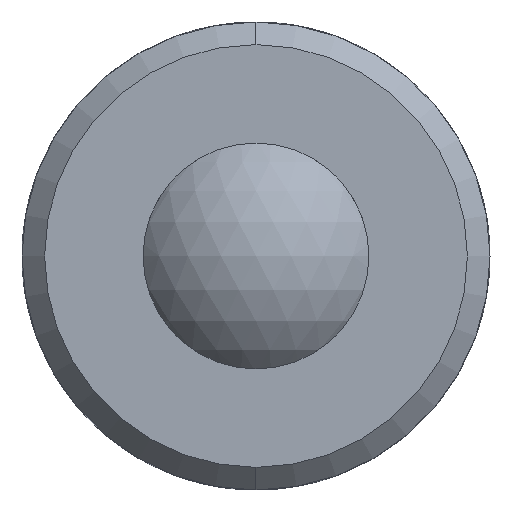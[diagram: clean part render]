
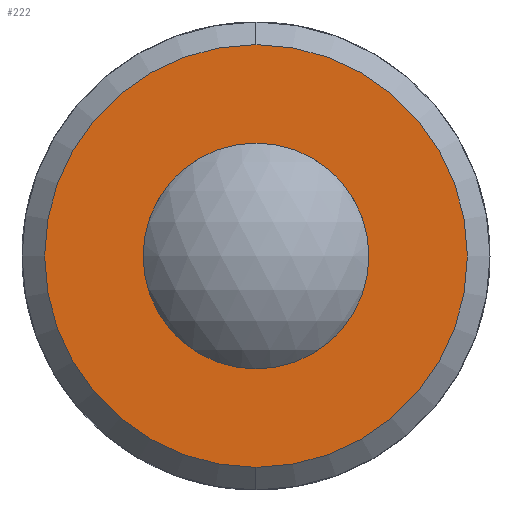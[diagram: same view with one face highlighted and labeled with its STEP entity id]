
A CAD part, left-side view. The second image highlights one B-rep face of the part: STEP entity #222.
In plain terms, the highlighted planar face has unit normal (-1, 0, 0).
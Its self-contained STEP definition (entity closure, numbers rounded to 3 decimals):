
#155=CARTESIAN_POINT('POINT296',(0.,0.,
   -13.1));
#156=VERTEX_POINT('VERTEX296',#155);
#174=CARTESIAN_POINT('POINT299',(0.,
   0.,13.1));
#175=VERTEX_POINT('VERTEX299',#174);
#182=CARTESIAN_POINT('POS348',(0.,0.,0.));
#183=DIRECTION('DIR517',(1.,0.,0.));
#184=DIRECTION('DIR518',(0.,0.,-1.));
#185=AXIS2_PLACEMENT_3D('AXIS170',#182,#183,#184);
#186=CIRCLE('ELLIPSE86',#185,13.1);
#187=EDGE_CURVE('EDGE439',#175,#156,#186,.T.);
#197=CARTESIAN_POINT('POINT300',(0.,
   0.,7.));
#198=VERTEX_POINT('VERTEX300',#197);
#199=CARTESIAN_POINT('POINT301',(0.,
   0.,-7.));
#200=VERTEX_POINT('VERTEX301',#199);
#201=CARTESIAN_POINT('POS350',(0.,0.,0.));
#202=DIRECTION('DIR521',(1.,0.,
   0.));
#203=DIRECTION('DIR522',(0.,0.,
   1.));
#204=AXIS2_PLACEMENT_3D('AXIS172',#201,#202,#203);
#205=CIRCLE('ELLIPSE87',#204,7.);
#206=EDGE_CURVE('EDGE440',#198,#200,#205,.T.);
#207=ORIENTED_EDGE('COEDGE870',*,*,#206,.T.);
#208=EDGE_CURVE('EDGE441',#200,#198,#205,.T.);
#209=ORIENTED_EDGE('COEDGE871',*,*,#208,.T.);
#210=EDGE_LOOP('NONE',(#207,#209));
#211=FACE_BOUND('LOOP1',#210,.T.);
#212=EDGE_CURVE('EDGE442',#156,#175,#186,.T.);
#213=ORIENTED_EDGE('COEDGE872',*,*,#212,.F.);
#214=ORIENTED_EDGE('COEDGE873',*,*,#187,.F.);
#215=EDGE_LOOP('NONE',(#213,#214));
#216=FACE_BOUND('LOOP1',#215,.T.);
#217=CARTESIAN_POINT('POS351',(0.,0.,-6.55
   ));
#218=DIRECTION('DIR523',(-1.,0.,0.));
#219=DIRECTION('DIR524',(0.,1.,0.));
#220=AXIS2_PLACEMENT_3D('AXIS173',#217,#218,#219);
#221=PLANE('PLANE53',#220);
#222=ADVANCED_FACE('FACE146',(#211,#216),#221,.T.);
